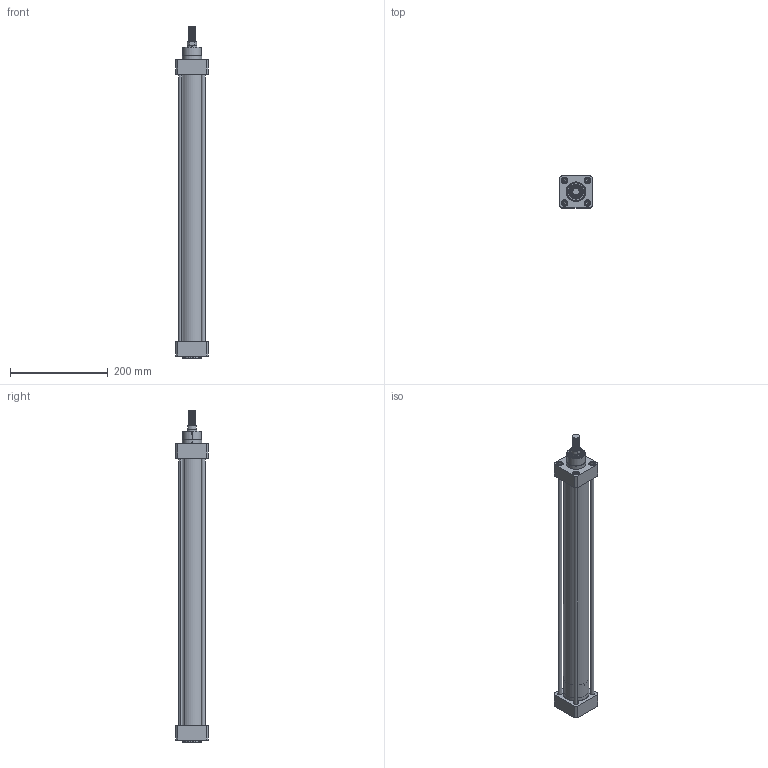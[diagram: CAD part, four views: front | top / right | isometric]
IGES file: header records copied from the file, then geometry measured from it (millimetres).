
Start section: SolidWorks IGES file using analytic representation for surfaces
Global section: file name: c:\CATALO3D\IGS\XJSS50.0500.IGS; native system: SolidWorks 2005 by SolidWorks Corporation; preprocessor: SolidWorks 2005 by SolidWorks Corporation; author: tania; date: 051130.171927; units: millimetre
Bounding box: 66 x 66 x 679 mm (x, y, z)
Surface area: 350857.9 mm2 (no closed solid volume)
Topology: 0 solids, 0 shells, 952 faces, 19048 edges, 23026 vertices
Faces by surface type: revolution 710, bspline 242
